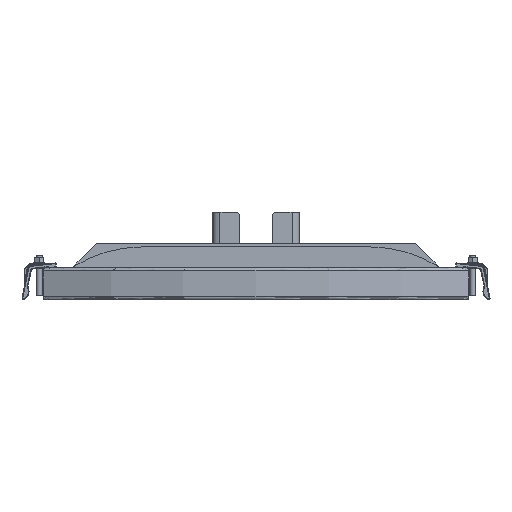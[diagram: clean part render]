
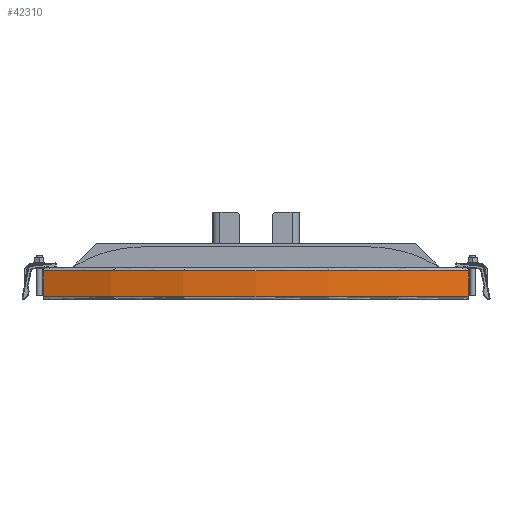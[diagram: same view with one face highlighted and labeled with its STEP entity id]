
A CAD part, front view. The second image highlights one B-rep face of the part: STEP entity #42310.
In plain terms, the highlighted cylindrical face has radius 672 mm (diameter 1344 mm), a partial arc.
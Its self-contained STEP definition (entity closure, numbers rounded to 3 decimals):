
#1282 = VERTEX_POINT ( 'NONE', #3603 ) ;
#1519 = CARTESIAN_POINT ( 'NONE',  ( 295.273, 56.346, 4. ) ) ;
#3603 = CARTESIAN_POINT ( 'NONE',  ( -295.273, 56.346, 4. ) ) ;
#4939 = ORIENTED_EDGE ( 'NONE', *, *, #7470, .T. ) ;
#6858 = VERTEX_POINT ( 'NONE', #1519 ) ;
#7176 = EDGE_LOOP ( 'NONE', ( #56733, #4939, #43820, #55300 ) ) ;
#7470 = EDGE_CURVE ( 'NONE', #18117, #9017, #42238, .T. ) ;
#8104 = AXIS2_PLACEMENT_3D ( 'NONE', #42148, #37873, #32974 ) ;
#9017 = VERTEX_POINT ( 'NONE', #33093 ) ;
#10957 = DIRECTION ( 'NONE',  ( 0., 0., -1. ) ) ;
#11585 = EDGE_CURVE ( 'NONE', #18117, #6858, #26838, .T. ) ;
#12749 = CARTESIAN_POINT ( 'NONE',  ( 295.273, 56.346, 40. ) ) ;
#13712 = DIRECTION ( 'NONE',  ( 0., 0., -1. ) ) ;
#14296 = DIRECTION ( 'NONE',  ( 0., 0., -1. ) ) ;
#18092 = CARTESIAN_POINT ( 'NONE',  ( 295.273, 56.346, 40. ) ) ;
#18117 = VERTEX_POINT ( 'NONE', #18092 ) ;
#21051 = DIRECTION ( 'NONE',  ( -1., 0., 0. ) ) ;
#24061 = CARTESIAN_POINT ( 'NONE',  ( -295.273, 56.346, 40. ) ) ;
#26838 = LINE ( 'NONE', #12749, #39814 ) ;
#27474 = DIRECTION ( 'NONE',  ( -1., 0., 0. ) ) ;
#29400 = AXIS2_PLACEMENT_3D ( 'NONE', #59299, #13712, #27474 ) ;
#29993 = EDGE_CURVE ( 'NONE', #9017, #1282, #43084, .T. ) ;
#32974 = DIRECTION ( 'NONE',  ( -1., 0., 0. ) ) ;
#33093 = CARTESIAN_POINT ( 'NONE',  ( -295.273, 56.346, 40. ) ) ;
#37873 = DIRECTION ( 'NONE',  ( 0., 0., -1. ) ) ;
#39652 = AXIS2_PLACEMENT_3D ( 'NONE', #52941, #10957, #21051 ) ;
#39814 = VECTOR ( 'NONE', #51030, 1000. ) ;
#41254 = CYLINDRICAL_SURFACE ( 'NONE', #8104, 672. ) ;
#42148 = CARTESIAN_POINT ( 'NONE',  ( 0., 660., 0. ) ) ;
#42238 = CIRCLE ( 'NONE', #29400, 672. ) ;
#42310 = ADVANCED_FACE ( 'NONE', ( #42442 ), #41254, .T. ) ;
#42442 = FACE_OUTER_BOUND ( 'NONE', #7176, .T. ) ;
#42932 = VECTOR ( 'NONE', #14296, 1000. ) ;
#43084 = LINE ( 'NONE', #24061, #42932 ) ;
#43820 = ORIENTED_EDGE ( 'NONE', *, *, #29993, .T. ) ;
#51030 = DIRECTION ( 'NONE',  ( 0., 0., -1. ) ) ;
#51480 = CIRCLE ( 'NONE', #39652, 672. ) ;
#52941 = CARTESIAN_POINT ( 'NONE',  ( 0., 660., 4. ) ) ;
#55300 = ORIENTED_EDGE ( 'NONE', *, *, #55478, .F. ) ;
#55478 = EDGE_CURVE ( 'NONE', #6858, #1282, #51480, .T. ) ;
#56733 = ORIENTED_EDGE ( 'NONE', *, *, #11585, .F. ) ;
#59299 = CARTESIAN_POINT ( 'NONE',  ( 0., 660., 40. ) ) ;
